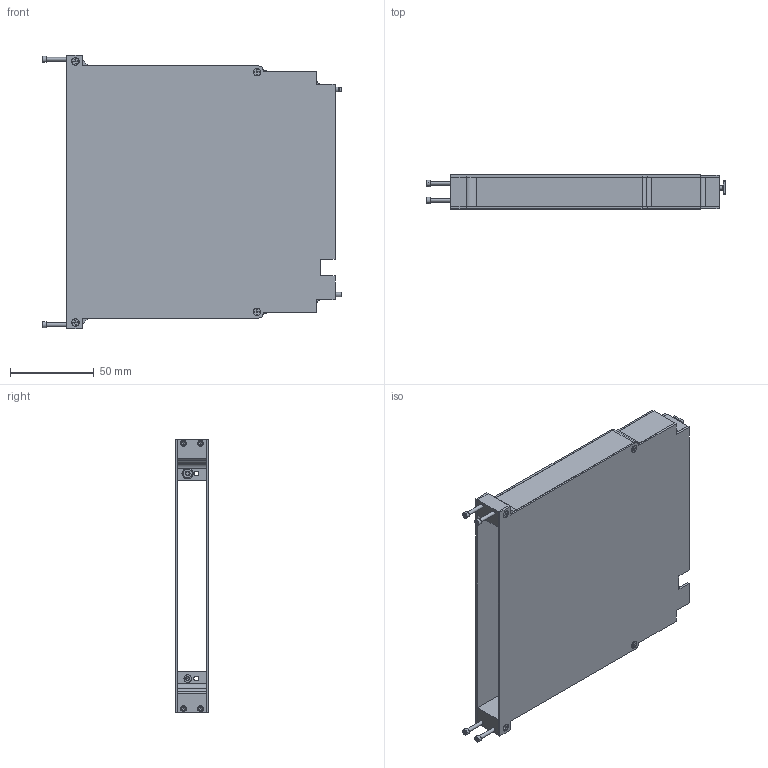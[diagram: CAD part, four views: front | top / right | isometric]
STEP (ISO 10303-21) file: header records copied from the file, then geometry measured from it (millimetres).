
FILE_DESCRIPTION(/* description */ (''),/* implementation_level */ '2;1');
FILE_NAME(/* name */ 'C:\CAD\CAD COMPLETE\web site project\DAKs\561002X-RevD-STP.stp',/* time_stamp */ '2014-01-20T14:46:59+00:00',/* author */ ('davecooper'),/* organization */ (''),/* preprocessor_version */ 'ST-DEVELOPER v15.2',/* originating_system */ 'Autodesk Inventor 2014',/* authorisation */ '');
FILE_SCHEMA (('AUTOMOTIVE_DESIGN { 1 0 10303 214 3 1 1 }'));
Length unit declared in the file: inch
Products named in the file (1): 561002X-CU
Bounding box: 178.53 x 20.07 x 163.58 mm (x, y, z)
Surface area: 115946.8 mm2 (no closed solid volume)
Topology: 0 solids, 19 shells, 537 faces, 1207 edges, 718 vertices
Faces by surface type: plane 402, cone 69, cylinder 64, torus 2
Full cylindrical faces by diameter (mm): 2.159 x1, 2.184 x20, 2.438 x8, 2.5 x1, 2.73 x1, 2.845 x1, 2.946 x4, 3.556 x4, 4.5 x1, 6.35 x1
Entity records: 14567 total; most frequent: CARTESIAN_POINT 2748, DIRECTION 2288, ORIENTED_EDGE 2170, EDGE_CURVE 1085, LINE 770, VECTOR 770, AXIS2_PLACEMENT_3D 759, VERTEX_POINT 691
